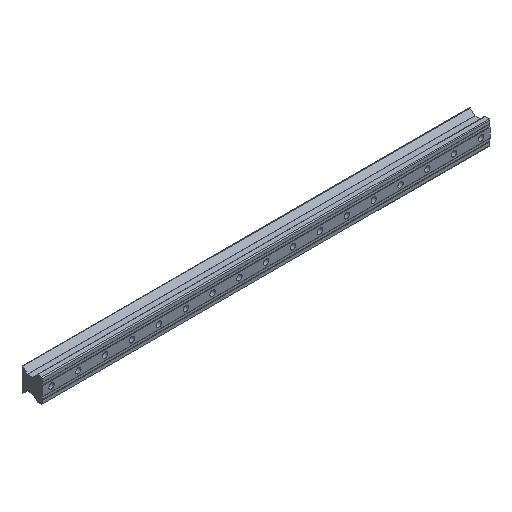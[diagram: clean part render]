
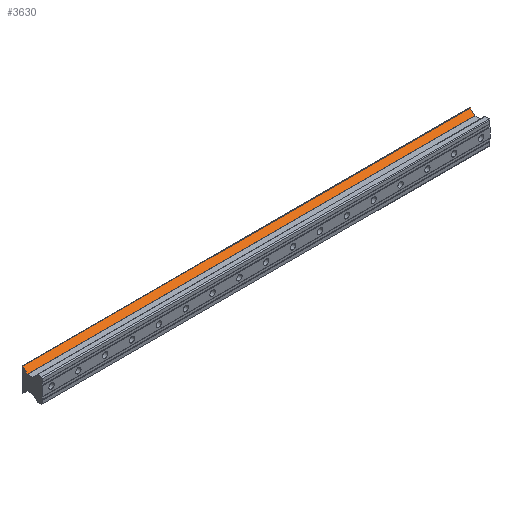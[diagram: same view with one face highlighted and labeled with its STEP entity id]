
A CAD part, isometric view. The second image highlights one B-rep face of the part: STEP entity #3630.
In plain terms, the highlighted planar face has unit normal (0, -0.707, 0.707) as drawn and (0.707, -0.707, 0) by its records, which use the part's own axes.
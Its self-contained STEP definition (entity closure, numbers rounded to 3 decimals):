
#224=PLANE('',#3870);
#414=FACE_OUTER_BOUND('',#629,.T.);
#629=EDGE_LOOP('',(#3344,#3345,#3346,#3347));
#929=LINE('',#7183,#1285);
#952=LINE('',#7241,#1308);
#985=LINE('',#7320,#1341);
#986=LINE('',#7322,#1342);
#1285=VECTOR('',#4463,10.);
#1308=VECTOR('',#4504,14.435);
#1341=VECTOR('',#4591,150.);
#1342=VECTOR('',#4594,150.);
#1773=VERTEX_POINT('',#7180);
#1774=VERTEX_POINT('',#7182);
#1799=VERTEX_POINT('',#7238);
#1800=VERTEX_POINT('',#7240);
#2263=EDGE_CURVE('',#1773,#1774,#929,.T.);
#2292=EDGE_CURVE('',#1800,#1799,#952,.T.);
#2332=EDGE_CURVE('',#1773,#1800,#985,.T.);
#2333=EDGE_CURVE('',#1774,#1799,#986,.T.);
#3344=ORIENTED_EDGE('',*,*,#2292,.T.);
#3345=ORIENTED_EDGE('',*,*,#2333,.F.);
#3346=ORIENTED_EDGE('',*,*,#2263,.F.);
#3347=ORIENTED_EDGE('',*,*,#2332,.T.);
#3630=ADVANCED_FACE('',(#414),#224,.T.);
#3870=AXIS2_PLACEMENT_3D('',#7321,#4592,#4593);
#4463=DIRECTION('',(-0.707,-0.707,0.));
#4504=DIRECTION('',(-0.707,-0.707,0.));
#4591=DIRECTION('',(0.,0.,1.));
#4592=DIRECTION('center_axis',(0.707,-0.707,0.));
#4593=DIRECTION('ref_axis',(0.,0.,-1.));
#4594=DIRECTION('',(0.,0.,1.));
#7180=CARTESIAN_POINT('',(26.354,44.162,-850.));
#7182=CARTESIAN_POINT('',(16.146,33.955,-850.));
#7183=CARTESIAN_POINT('',(16.146,33.955,-850.));
#7238=CARTESIAN_POINT('',(16.146,33.955,150.));
#7240=CARTESIAN_POINT('',(26.354,44.162,150.));
#7241=CARTESIAN_POINT('',(26.354,44.162,150.));
#7320=CARTESIAN_POINT('',(26.354,44.162,0.));
#7321=CARTESIAN_POINT('Origin',(26.354,44.162,0.));
#7322=CARTESIAN_POINT('',(16.146,33.955,0.));
